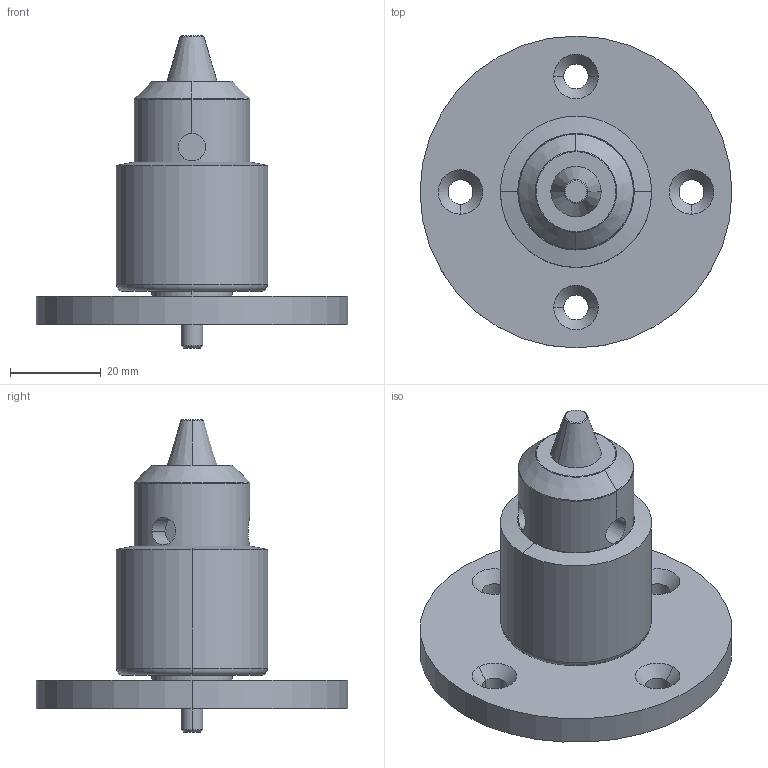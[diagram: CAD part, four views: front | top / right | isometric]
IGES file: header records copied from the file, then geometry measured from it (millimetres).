
Global section: file name: No Iges File Name specified; native system: Autodesk Inventor 2010; preprocessor: AutoDesk Inventor Iges Exporter R2010; author: mlampen; date: 20170621.164955; units: inch
Bounding box: 68.58 x 68.58 x 68.63 mm (x, y, z)
Volume: 56010.8 mm3; surface area: 14887 mm2
Topology: 1 solids, 1 shells, 58 faces, 129 edges, 80 vertices
Faces by surface type: revolution 22, cylinder 10, plane 10, cone 8, torus 8
